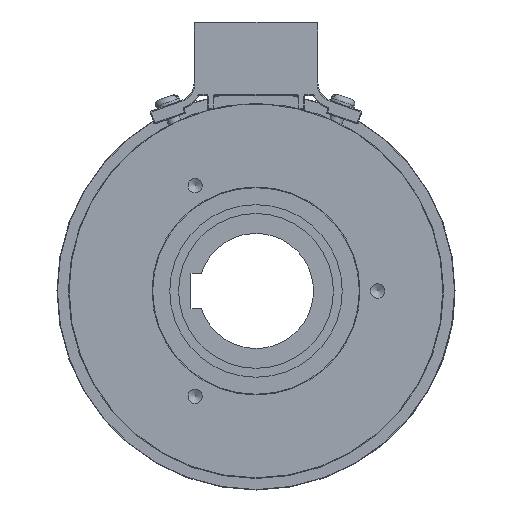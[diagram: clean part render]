
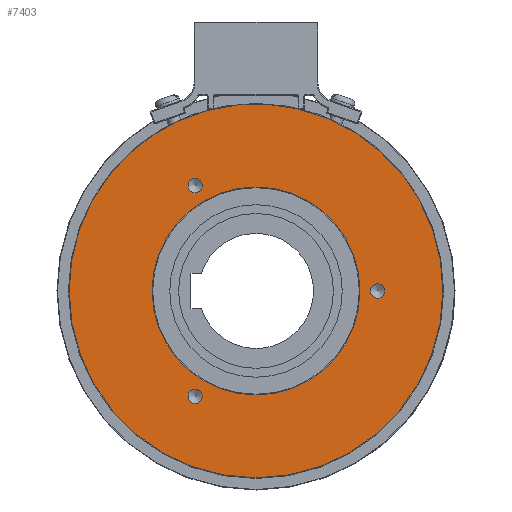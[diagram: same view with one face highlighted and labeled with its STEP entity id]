
A CAD part, left-side view. The second image highlights one B-rep face of the part: STEP entity #7403.
In plain terms, the highlighted planar face has unit normal (-1, 0, 0).
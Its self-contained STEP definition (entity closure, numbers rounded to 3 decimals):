
#727=FACE_BOUND('',#2092,.T.);
#728=FACE_BOUND('',#2093,.T.);
#729=FACE_BOUND('',#2094,.T.);
#730=FACE_BOUND('',#2095,.T.);
#899=CIRCLE('',#7761,42.25);
#900=CIRCLE('',#7762,42.25);
#1111=CIRCLE('',#8162,1.621);
#1112=CIRCLE('',#8163,1.621);
#1115=CIRCLE('',#8168,1.621);
#1116=CIRCLE('',#8169,1.621);
#1119=CIRCLE('',#8174,1.621);
#1120=CIRCLE('',#8175,1.621);
#1137=CIRCLE('',#8203,42.25);
#1138=CIRCLE('',#8205,23.5);
#1139=CIRCLE('',#8206,23.5);
#1631=FACE_OUTER_BOUND('',#2091,.T.);
#2091=EDGE_LOOP('',(#6224,#6225,#6226));
#2092=EDGE_LOOP('',(#6227,#6228));
#2093=EDGE_LOOP('',(#6229,#6230));
#2094=EDGE_LOOP('',(#6231,#6232));
#2095=EDGE_LOOP('',(#6233,#6234));
#3248=VERTEX_POINT('',#11380);
#3253=VERTEX_POINT('',#11390);
#3254=VERTEX_POINT('',#11392);
#3517=VERTEX_POINT('',#12486);
#3518=VERTEX_POINT('',#12487);
#3522=VERTEX_POINT('',#12499);
#3523=VERTEX_POINT('',#12500);
#3527=VERTEX_POINT('',#12512);
#3528=VERTEX_POINT('',#12513);
#3543=VERTEX_POINT('',#12565);
#3544=VERTEX_POINT('',#12566);
#4013=EDGE_CURVE('',#3254,#3253,#899,.T.);
#4014=EDGE_CURVE('',#3248,#3254,#900,.T.);
#4458=EDGE_CURVE('',#3517,#3518,#1111,.T.);
#4459=EDGE_CURVE('',#3518,#3517,#1112,.T.);
#4464=EDGE_CURVE('',#3522,#3523,#1115,.T.);
#4465=EDGE_CURVE('',#3523,#3522,#1116,.T.);
#4470=EDGE_CURVE('',#3527,#3528,#1119,.T.);
#4471=EDGE_CURVE('',#3528,#3527,#1120,.T.);
#4494=EDGE_CURVE('',#3253,#3248,#1137,.T.);
#4495=EDGE_CURVE('',#3543,#3544,#1138,.T.);
#4496=EDGE_CURVE('',#3544,#3543,#1139,.T.);
#6224=ORIENTED_EDGE('',*,*,#4013,.T.);
#6225=ORIENTED_EDGE('',*,*,#4494,.T.);
#6226=ORIENTED_EDGE('',*,*,#4014,.T.);
#6227=ORIENTED_EDGE('',*,*,#4458,.T.);
#6228=ORIENTED_EDGE('',*,*,#4459,.T.);
#6229=ORIENTED_EDGE('',*,*,#4464,.T.);
#6230=ORIENTED_EDGE('',*,*,#4465,.T.);
#6231=ORIENTED_EDGE('',*,*,#4470,.T.);
#6232=ORIENTED_EDGE('',*,*,#4471,.T.);
#6233=ORIENTED_EDGE('',*,*,#4495,.F.);
#6234=ORIENTED_EDGE('',*,*,#4496,.F.);
#7076=PLANE('',#8204);
#7403=ADVANCED_FACE('',(#1631,#727,#728,#729,#730),#7076,.T.);
#7761=AXIS2_PLACEMENT_3D('',#11393,#9028,#9029);
#7762=AXIS2_PLACEMENT_3D('',#11394,#9030,#9031);
#8162=AXIS2_PLACEMENT_3D('',#12488,#10045,#10046);
#8163=AXIS2_PLACEMENT_3D('',#12489,#10047,#10048);
#8168=AXIS2_PLACEMENT_3D('',#12501,#10059,#10060);
#8169=AXIS2_PLACEMENT_3D('',#12502,#10061,#10062);
#8174=AXIS2_PLACEMENT_3D('',#12514,#10073,#10074);
#8175=AXIS2_PLACEMENT_3D('',#12515,#10075,#10076);
#8203=AXIS2_PLACEMENT_3D('',#12563,#10137,#10138);
#8204=AXIS2_PLACEMENT_3D('',#12564,#10139,#10140);
#8205=AXIS2_PLACEMENT_3D('',#12567,#10141,#10142);
#8206=AXIS2_PLACEMENT_3D('',#12568,#10143,#10144);
#9028=DIRECTION('center_axis',(-1.,0.,0.));
#9029=DIRECTION('ref_axis',(0.,1.,0.));
#9030=DIRECTION('center_axis',(-1.,0.,0.));
#9031=DIRECTION('ref_axis',(0.,1.,0.));
#10045=DIRECTION('center_axis',(1.,0.,0.));
#10046=DIRECTION('ref_axis',(0.,0.,
1.));
#10047=DIRECTION('center_axis',(1.,0.,0.));
#10048=DIRECTION('ref_axis',(0.,0.,
1.));
#10059=DIRECTION('center_axis',(1.,0.,0.));
#10060=DIRECTION('ref_axis',(0.,0.,
1.));
#10061=DIRECTION('center_axis',(1.,0.,0.));
#10062=DIRECTION('ref_axis',(0.,0.,
1.));
#10073=DIRECTION('center_axis',(1.,0.,0.));
#10074=DIRECTION('ref_axis',(0.,0.,
1.));
#10075=DIRECTION('center_axis',(1.,0.,0.));
#10076=DIRECTION('ref_axis',(0.,0.,
1.));
#10137=DIRECTION('center_axis',(-1.,0.,0.));
#10138=DIRECTION('ref_axis',(0.,1.,0.));
#10139=DIRECTION('center_axis',(-1.,0.,0.));
#10140=DIRECTION('ref_axis',(0.,0.,
1.));
#10141=DIRECTION('center_axis',(-1.,0.,0.));
#10142=DIRECTION('ref_axis',(0.,1.,0.));
#10143=DIRECTION('center_axis',(-1.,0.,0.));
#10144=DIRECTION('ref_axis',(0.,1.,0.));
#11380=CARTESIAN_POINT('',(-14.05,-9.654,41.132));
#11390=CARTESIAN_POINT('',(-14.05,-42.25,0.));
#11392=CARTESIAN_POINT('',(-14.05,42.25,0.));
#11393=CARTESIAN_POINT('Origin',(-14.05,0.,0.));
#11394=CARTESIAN_POINT('Origin',(-14.05,0.,0.));
#12486=CARTESIAN_POINT('',(-14.05,13.75,25.437));
#12487=CARTESIAN_POINT('',(-14.05,13.75,22.195));
#12488=CARTESIAN_POINT('Origin',(-14.05,13.75,23.816));
#12489=CARTESIAN_POINT('Origin',(-14.05,13.75,23.816));
#12499=CARTESIAN_POINT('',(-14.05,-27.5,1.621));
#12500=CARTESIAN_POINT('',(-14.05,-27.5,-1.621));
#12501=CARTESIAN_POINT('Origin',(-14.05,-27.5,0.));
#12502=CARTESIAN_POINT('Origin',(-14.05,-27.5,0.));
#12512=CARTESIAN_POINT('',(-14.05,13.75,-22.195));
#12513=CARTESIAN_POINT('',(-14.05,13.75,-25.437));
#12514=CARTESIAN_POINT('Origin',(-14.05,13.75,-23.816));
#12515=CARTESIAN_POINT('Origin',(-14.05,13.75,-23.816));
#12563=CARTESIAN_POINT('Origin',(-14.05,0.,0.));
#12564=CARTESIAN_POINT('Origin',(-14.05,32.875,0.));
#12565=CARTESIAN_POINT('',(-14.05,23.5,0.));
#12566=CARTESIAN_POINT('',(-14.05,-23.5,0.));
#12567=CARTESIAN_POINT('Origin',(-14.05,0.,0.));
#12568=CARTESIAN_POINT('Origin',(-14.05,0.,0.));
